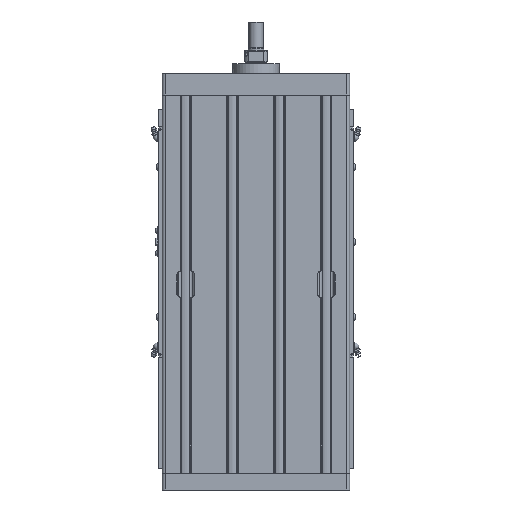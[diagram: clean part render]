
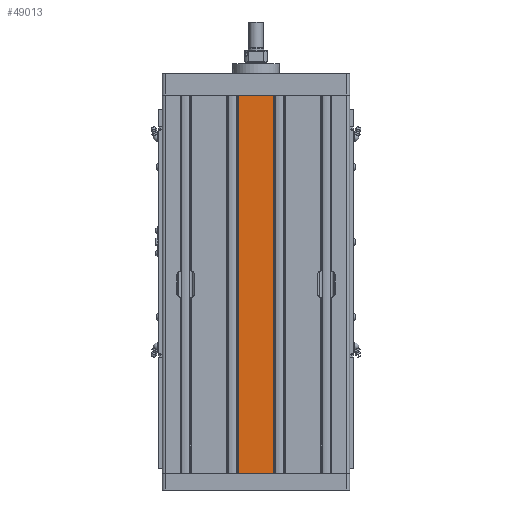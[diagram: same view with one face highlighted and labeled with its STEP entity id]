
A CAD part, front view. The second image highlights one B-rep face of the part: STEP entity #49013.
In plain terms, the highlighted planar face has unit normal (0, -1, 0).
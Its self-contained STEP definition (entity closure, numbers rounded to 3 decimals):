
#6340=FACE_OUTER_BOUND('',#9119,.T.);
#9119=EDGE_LOOP('',(#34632,#34633,#34634,#34635));
#12599=LINE('',#71868,#17077);
#12695=LINE('',#72181,#17173);
#12857=LINE('',#72584,#17335);
#12858=LINE('',#72586,#17336);
#17077=VECTOR('',#57766,10.);
#17173=VECTOR('',#57992,10.);
#17335=VECTOR('',#58402,10.);
#17336=VECTOR('',#58405,10.);
#21519=VERTEX_POINT('',#71865);
#21520=VERTEX_POINT('',#71867);
#21671=VERTEX_POINT('',#72178);
#21672=VERTEX_POINT('',#72180);
#26434=EDGE_CURVE('',#21519,#21520,#12599,.T.);
#26594=EDGE_CURVE('',#21671,#21672,#12695,.T.);
#26800=EDGE_CURVE('',#21519,#21672,#12857,.T.);
#26801=EDGE_CURVE('',#21520,#21671,#12858,.T.);
#34632=ORIENTED_EDGE('',*,*,#26800,.T.);
#34633=ORIENTED_EDGE('',*,*,#26594,.F.);
#34634=ORIENTED_EDGE('',*,*,#26801,.F.);
#34635=ORIENTED_EDGE('',*,*,#26434,.F.);
#47304=PLANE('',#52401);
#49013=ADVANCED_FACE('',(#6340),#47304,.T.);
#52401=AXIS2_PLACEMENT_3D('',#72585,#58403,#58404);
#57766=DIRECTION('',(-1.,0.,0.));
#57992=DIRECTION('',(1.,0.,0.));
#58402=DIRECTION('',(0.,0.,1.));
#58403=DIRECTION('center_axis',(0.,-1.,0.));
#58404=DIRECTION('ref_axis',(1.,0.,0.));
#58405=DIRECTION('',(0.,0.,1.));
#71865=CARTESIAN_POINT('',(18.9,-50.,-252.));
#71867=CARTESIAN_POINT('',(-18.9,-50.,-252.));
#71868=CARTESIAN_POINT('',(18.9,-50.,-252.));
#72178=CARTESIAN_POINT('',(-18.9,-50.,152.));
#72180=CARTESIAN_POINT('',(18.9,-50.,152.));
#72181=CARTESIAN_POINT('',(-18.9,-50.,152.));
#72584=CARTESIAN_POINT('',(18.9,-50.,0.));
#72585=CARTESIAN_POINT('Origin',(-18.9,-50.,0.));
#72586=CARTESIAN_POINT('',(-18.9,-50.,0.));
